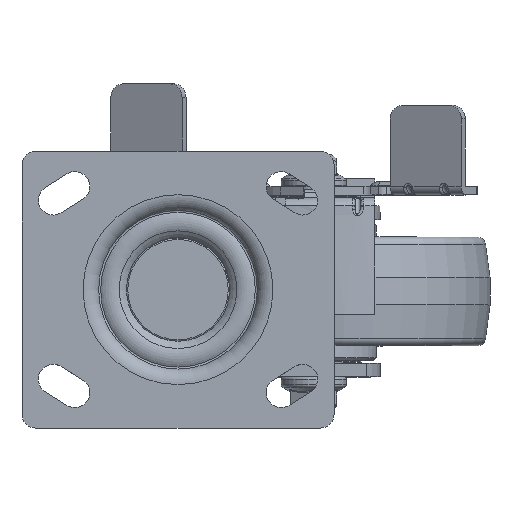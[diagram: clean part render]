
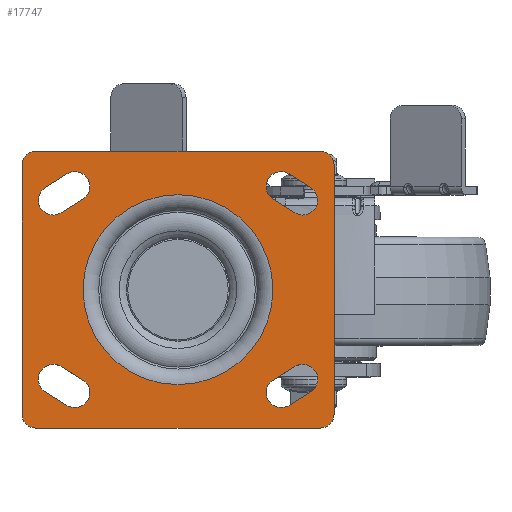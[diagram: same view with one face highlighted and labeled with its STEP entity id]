
A CAD part, top view. The second image highlights one B-rep face of the part: STEP entity #17747.
In plain terms, the highlighted planar face has unit normal (0, 0, 1).
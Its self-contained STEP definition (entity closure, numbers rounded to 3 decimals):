
#1585=FACE_BOUND('',#4201,.T.);
#1586=FACE_BOUND('',#4202,.T.);
#1587=FACE_BOUND('',#4203,.T.);
#1588=FACE_BOUND('',#4204,.T.);
#1589=FACE_BOUND('',#4205,.T.);
#1826=PLANE('',#19885);
#3045=FACE_OUTER_BOUND('',#4200,.T.);
#4200=EDGE_LOOP('',(#16422,#16423,#16424,#16425,#16426,#16427,#16428,#16429));
#4201=EDGE_LOOP('',(#16430,#16431,#16432,#16433));
#4202=EDGE_LOOP('',(#16434,#16435,#16436,#16437));
#4203=EDGE_LOOP('',(#16438,#16439,#16440,#16441));
#4204=EDGE_LOOP('',(#16442,#16443,#16444,#16445));
#4205=EDGE_LOOP('',(#16446));
#4906=LINE('',#73875,#5614);
#4910=LINE('',#73887,#5618);
#4915=LINE('',#73905,#5623);
#4919=LINE('',#73917,#5627);
#4923=LINE('',#73929,#5631);
#4927=LINE('',#73939,#5635);
#4930=LINE('',#73947,#5638);
#4934=LINE('',#73959,#5642);
#4938=LINE('',#73971,#5646);
#4942=LINE('',#73983,#5650);
#4951=LINE('',#74005,#5659);
#4955=LINE('',#74017,#5663);
#5614=VECTOR('',#24570,9.434);
#5618=VECTOR('',#24582,9.434);
#5623=VECTOR('',#24601,105.);
#5627=VECTOR('',#24613,92.);
#5631=VECTOR('',#24625,105.);
#5635=VECTOR('',#24637,92.);
#5638=VECTOR('',#24642,9.434);
#5642=VECTOR('',#24654,9.434);
#5646=VECTOR('',#24666,9.434);
#5650=VECTOR('',#24678,9.434);
#5659=VECTOR('',#24701,9.434);
#5663=VECTOR('',#24713,9.434);
#6771=CIRCLE('',#19808,5.5);
#6773=CIRCLE('',#19812,5.5);
#6775=CIRCLE('',#19815,5.);
#6777=CIRCLE('',#19819,5.);
#6779=CIRCLE('',#19823,5.);
#6781=CIRCLE('',#19827,5.);
#6783=CIRCLE('',#19832,5.5);
#6785=CIRCLE('',#19836,5.5);
#6787=CIRCLE('',#19840,5.5);
#6789=CIRCLE('',#19844,5.5);
#6791=CIRCLE('',#19851,5.5);
#6793=CIRCLE('',#19855,5.5);
#6811=CIRCLE('',#19883,35.);
#8439=VERTEX_POINT('',#73872);
#8440=VERTEX_POINT('',#73874);
#8442=VERTEX_POINT('',#73880);
#8444=VERTEX_POINT('',#73886);
#8447=VERTEX_POINT('',#73896);
#8448=VERTEX_POINT('',#73898);
#8450=VERTEX_POINT('',#73904);
#8452=VERTEX_POINT('',#73910);
#8454=VERTEX_POINT('',#73916);
#8456=VERTEX_POINT('',#73922);
#8458=VERTEX_POINT('',#73928);
#8460=VERTEX_POINT('',#73934);
#8463=VERTEX_POINT('',#73944);
#8464=VERTEX_POINT('',#73946);
#8466=VERTEX_POINT('',#73952);
#8468=VERTEX_POINT('',#73958);
#8471=VERTEX_POINT('',#73968);
#8472=VERTEX_POINT('',#73970);
#8474=VERTEX_POINT('',#73976);
#8476=VERTEX_POINT('',#73982);
#8481=VERTEX_POINT('',#74002);
#8482=VERTEX_POINT('',#74004);
#8484=VERTEX_POINT('',#74010);
#8486=VERTEX_POINT('',#74016);
#8496=VERTEX_POINT('',#74058);
#11085=EDGE_CURVE('',#8440,#8439,#4906,.T.);
#11088=EDGE_CURVE('',#8442,#8440,#6771,.T.);
#11091=EDGE_CURVE('',#8444,#8442,#4910,.T.);
#11094=EDGE_CURVE('',#8439,#8444,#6773,.T.);
#11097=EDGE_CURVE('',#8448,#8447,#6775,.T.);
#11100=EDGE_CURVE('',#8450,#8448,#4915,.T.);
#11103=EDGE_CURVE('',#8452,#8450,#6777,.T.);
#11106=EDGE_CURVE('',#8454,#8452,#4919,.T.);
#11109=EDGE_CURVE('',#8456,#8454,#6779,.T.);
#11112=EDGE_CURVE('',#8458,#8456,#4923,.T.);
#11115=EDGE_CURVE('',#8460,#8458,#6781,.T.);
#11118=EDGE_CURVE('',#8447,#8460,#4927,.T.);
#11121=EDGE_CURVE('',#8464,#8463,#4930,.T.);
#11124=EDGE_CURVE('',#8466,#8464,#6783,.T.);
#11127=EDGE_CURVE('',#8468,#8466,#4934,.T.);
#11130=EDGE_CURVE('',#8463,#8468,#6785,.T.);
#11133=EDGE_CURVE('',#8472,#8471,#4938,.T.);
#11136=EDGE_CURVE('',#8474,#8472,#6787,.T.);
#11139=EDGE_CURVE('',#8476,#8474,#4942,.T.);
#11142=EDGE_CURVE('',#8471,#8476,#6789,.T.);
#11150=EDGE_CURVE('',#8482,#8481,#4951,.T.);
#11153=EDGE_CURVE('',#8484,#8482,#6791,.T.);
#11156=EDGE_CURVE('',#8486,#8484,#4955,.T.);
#11159=EDGE_CURVE('',#8481,#8486,#6793,.T.);
#11177=EDGE_CURVE('',#8496,#8496,#6811,.T.);
#16422=ORIENTED_EDGE('',*,*,#11109,.T.);
#16423=ORIENTED_EDGE('',*,*,#11106,.T.);
#16424=ORIENTED_EDGE('',*,*,#11103,.T.);
#16425=ORIENTED_EDGE('',*,*,#11100,.T.);
#16426=ORIENTED_EDGE('',*,*,#11097,.T.);
#16427=ORIENTED_EDGE('',*,*,#11118,.T.);
#16428=ORIENTED_EDGE('',*,*,#11115,.T.);
#16429=ORIENTED_EDGE('',*,*,#11112,.T.);
#16430=ORIENTED_EDGE('',*,*,#11091,.T.);
#16431=ORIENTED_EDGE('',*,*,#11088,.T.);
#16432=ORIENTED_EDGE('',*,*,#11085,.T.);
#16433=ORIENTED_EDGE('',*,*,#11094,.T.);
#16434=ORIENTED_EDGE('',*,*,#11127,.T.);
#16435=ORIENTED_EDGE('',*,*,#11124,.T.);
#16436=ORIENTED_EDGE('',*,*,#11121,.T.);
#16437=ORIENTED_EDGE('',*,*,#11130,.T.);
#16438=ORIENTED_EDGE('',*,*,#11139,.T.);
#16439=ORIENTED_EDGE('',*,*,#11136,.T.);
#16440=ORIENTED_EDGE('',*,*,#11133,.T.);
#16441=ORIENTED_EDGE('',*,*,#11142,.T.);
#16442=ORIENTED_EDGE('',*,*,#11156,.T.);
#16443=ORIENTED_EDGE('',*,*,#11153,.T.);
#16444=ORIENTED_EDGE('',*,*,#11150,.T.);
#16445=ORIENTED_EDGE('',*,*,#11159,.T.);
#16446=ORIENTED_EDGE('',*,*,#11177,.T.);
#17747=ADVANCED_FACE('',(#3045,#1585,#1586,#1587,#1588,#1589),#1826,.T.);
#19808=AXIS2_PLACEMENT_3D('',#73881,#24576,#24577);
#19812=AXIS2_PLACEMENT_3D('',#73891,#24588,#24589);
#19815=AXIS2_PLACEMENT_3D('',#73899,#24595,#24596);
#19819=AXIS2_PLACEMENT_3D('',#73911,#24607,#24608);
#19823=AXIS2_PLACEMENT_3D('',#73923,#24619,#24620);
#19827=AXIS2_PLACEMENT_3D('',#73935,#24631,#24632);
#19832=AXIS2_PLACEMENT_3D('',#73953,#24648,#24649);
#19836=AXIS2_PLACEMENT_3D('',#73963,#24660,#24661);
#19840=AXIS2_PLACEMENT_3D('',#73977,#24672,#24673);
#19844=AXIS2_PLACEMENT_3D('',#73987,#24684,#24685);
#19851=AXIS2_PLACEMENT_3D('',#74011,#24707,#24708);
#19855=AXIS2_PLACEMENT_3D('',#74021,#24719,#24720);
#19883=AXIS2_PLACEMENT_3D('',#74059,#24775,#24776);
#19885=AXIS2_PLACEMENT_3D('',#74061,#24779,#24780);
#24570=DIRECTION('',(-0.848,0.53,0.));
#24576=DIRECTION('center_axis',(0.,0.,-1.));
#24577=DIRECTION('ref_axis',(1.,0.,0.));
#24582=DIRECTION('',(0.848,-0.53,0.));
#24588=DIRECTION('center_axis',(0.,0.,-1.));
#24589=DIRECTION('ref_axis',(1.,0.,0.));
#24595=DIRECTION('center_axis',(0.,0.,1.));
#24596=DIRECTION('ref_axis',(1.,0.,0.));
#24601=DIRECTION('',(1.,0.,0.));
#24607=DIRECTION('center_axis',(0.,0.,1.));
#24608=DIRECTION('ref_axis',(1.,0.,0.));
#24613=DIRECTION('',(0.,-1.,0.));
#24619=DIRECTION('center_axis',(0.,0.,1.));
#24620=DIRECTION('ref_axis',(1.,0.,0.));
#24625=DIRECTION('',(-1.,0.,0.));
#24631=DIRECTION('center_axis',(0.,0.,1.));
#24632=DIRECTION('ref_axis',(1.,0.,0.));
#24637=DIRECTION('',(0.,1.,0.));
#24642=DIRECTION('',(0.848,-0.53,0.));
#24648=DIRECTION('center_axis',(0.,0.,-1.));
#24649=DIRECTION('ref_axis',(1.,0.,0.));
#24654=DIRECTION('',(-0.848,0.53,0.));
#24660=DIRECTION('center_axis',(0.,0.,-1.));
#24661=DIRECTION('ref_axis',(1.,0.,0.));
#24666=DIRECTION('',(0.848,0.53,0.));
#24672=DIRECTION('center_axis',(0.,0.,-1.));
#24673=DIRECTION('ref_axis',(1.,0.,0.));
#24678=DIRECTION('',(-0.848,-0.53,0.));
#24684=DIRECTION('center_axis',(0.,0.,-1.));
#24685=DIRECTION('ref_axis',(1.,0.,0.));
#24701=DIRECTION('',(-0.848,-0.53,0.));
#24707=DIRECTION('center_axis',(0.,0.,-1.));
#24708=DIRECTION('ref_axis',(1.,0.,0.));
#24713=DIRECTION('',(0.848,0.53,0.));
#24719=DIRECTION('center_axis',(0.,0.,-1.));
#24720=DIRECTION('ref_axis',(1.,0.,0.));
#24775=DIRECTION('center_axis',(0.,0.,-1.));
#24776=DIRECTION('ref_axis',(1.,0.,0.));
#24779=DIRECTION('center_axis',(0.,0.,1.));
#24780=DIRECTION('ref_axis',(1.,0.,0.));
#73872=CARTESIAN_POINT('',(35.085,33.336,0.));
#73874=CARTESIAN_POINT('',(43.085,28.336,0.));
#73875=CARTESIAN_POINT('',(43.085,28.336,0.));
#73880=CARTESIAN_POINT('',(48.915,37.664,0.));
#73881=CARTESIAN_POINT('Origin',(46.,33.,0.));
#73886=CARTESIAN_POINT('',(40.915,42.664,0.));
#73887=CARTESIAN_POINT('',(40.915,42.664,0.));
#73891=CARTESIAN_POINT('Origin',(38.,38.,0.));
#73896=CARTESIAN_POINT('',(57.5,-46.,0.));
#73898=CARTESIAN_POINT('',(52.5,-51.,0.));
#73899=CARTESIAN_POINT('Origin',(52.5,-46.,0.));
#73904=CARTESIAN_POINT('',(-52.5,-51.,0.));
#73905=CARTESIAN_POINT('',(-52.5,-51.,0.));
#73910=CARTESIAN_POINT('',(-57.5,-46.,0.));
#73911=CARTESIAN_POINT('Origin',(-52.5,-46.,0.));
#73916=CARTESIAN_POINT('',(-57.5,46.,0.));
#73917=CARTESIAN_POINT('',(-57.5,46.,0.));
#73922=CARTESIAN_POINT('',(-52.5,51.,0.));
#73923=CARTESIAN_POINT('Origin',(-52.5,46.,0.));
#73928=CARTESIAN_POINT('',(52.5,51.,0.));
#73929=CARTESIAN_POINT('',(52.5,51.,0.));
#73934=CARTESIAN_POINT('',(57.5,46.,0.));
#73935=CARTESIAN_POINT('Origin',(52.5,46.,0.));
#73939=CARTESIAN_POINT('',(57.5,-46.,0.));
#73944=CARTESIAN_POINT('',(-35.085,-33.336,0.));
#73946=CARTESIAN_POINT('',(-43.085,-28.336,0.));
#73947=CARTESIAN_POINT('',(-43.085,-28.336,0.));
#73952=CARTESIAN_POINT('',(-48.915,-37.664,0.));
#73953=CARTESIAN_POINT('Origin',(-46.,-33.,0.));
#73958=CARTESIAN_POINT('',(-40.915,-42.664,0.));
#73959=CARTESIAN_POINT('',(-40.915,-42.664,0.));
#73963=CARTESIAN_POINT('Origin',(-38.,-38.,0.));
#73968=CARTESIAN_POINT('',(-40.915,42.664,0.));
#73970=CARTESIAN_POINT('',(-48.915,37.664,0.));
#73971=CARTESIAN_POINT('',(-48.915,37.664,0.));
#73976=CARTESIAN_POINT('',(-43.085,28.336,0.));
#73977=CARTESIAN_POINT('Origin',(-46.,33.,0.));
#73982=CARTESIAN_POINT('',(-35.085,33.336,0.));
#73983=CARTESIAN_POINT('',(-35.085,33.336,0.));
#73987=CARTESIAN_POINT('Origin',(-38.,38.,0.));
#74002=CARTESIAN_POINT('',(40.915,-42.664,0.));
#74004=CARTESIAN_POINT('',(48.915,-37.664,0.));
#74005=CARTESIAN_POINT('',(48.915,-37.664,0.));
#74010=CARTESIAN_POINT('',(43.085,-28.336,0.));
#74011=CARTESIAN_POINT('Origin',(46.,-33.,0.));
#74016=CARTESIAN_POINT('',(35.085,-33.336,0.));
#74017=CARTESIAN_POINT('',(35.085,-33.336,0.));
#74021=CARTESIAN_POINT('Origin',(38.,-38.,0.));
#74058=CARTESIAN_POINT('',(35.,0.,0.));
#74059=CARTESIAN_POINT('Origin',(0.,0.,0.));
#74061=CARTESIAN_POINT('Origin',(67.5,0.,0.));
